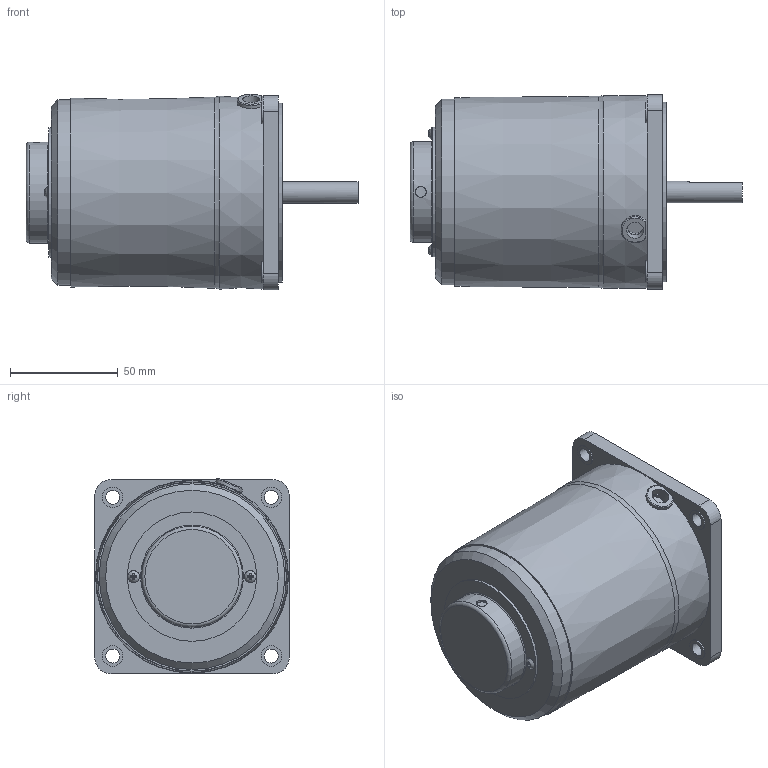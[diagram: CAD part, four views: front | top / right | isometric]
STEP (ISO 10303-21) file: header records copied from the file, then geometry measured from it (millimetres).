
FILE_DESCRIPTION((''),'2;1');
FILE_NAME('D:\STP파일\40W MOTOR\SPEED CONTROL TYPE\S9I40K-S.stp','2013-05-20T16:54:51',('leebh'),(''),'Autodesk Inventor 2011','Autodesk Inventor 2011','');
FILE_SCHEMA(('AUTOMOTIVE_DESIGN { 1 0 10303 214 1 1 1 1 }'));
Length unit declared in the file: millimetre
Products named in the file (1): 부품3
Bounding box: 153.8 x 90 x 90.6 mm (x, y, z)
Volume: 669742.1 mm3; surface area: 52411 mm2
Topology: 1 solids, 6 shells, 148 faces, 343 edges, 223 vertices
Faces by surface type: plane 85, cylinder 48, torus 9, bspline 3, cone 3
Full cylindrical faces by diameter (mm): 3 x2, 3.5 x2, 5 x1, 5.6 x2, 6.5 x4, 8 x1, 9.5 x4, 10 x2, 40 x1, 44.7 x1, 46.7 x1, 47.7 x1, 59.9 x1, 83 x1, 86 x1
Entity records: 4421 total; most frequent: CARTESIAN_POINT 1130, DIRECTION 660, ORIENTED_EDGE 594, EDGE_CURVE 297, AXIS2_PLACEMENT_3D 250, EDGE_LOOP 219, VERTEX_POINT 216, VECTOR 160
